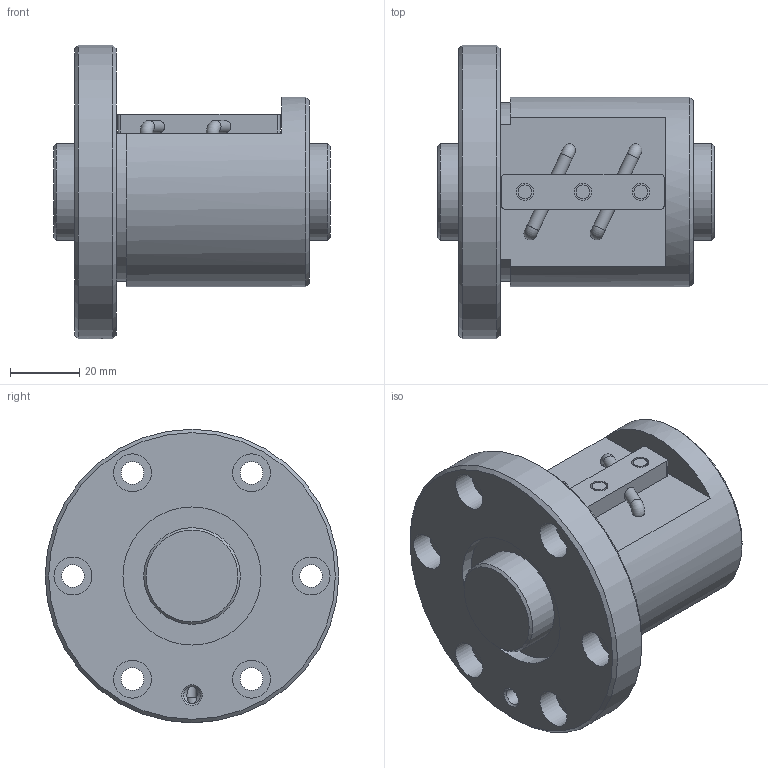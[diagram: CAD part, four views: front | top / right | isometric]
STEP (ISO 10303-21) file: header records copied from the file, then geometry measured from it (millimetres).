
FILE_DESCRIPTION(/* description */ ('STEP AP203'),/* implementation_level */ '2;1');
FILE_NAME(/* name */ 'BNF2806V-5RRG1+80LC0_000_rev',/* time_stamp */ '2024-08-06T07:30:50+02:00',/* author */ ('License CC BY-ND 4.0'),/* organization */ ('CADENAS'),/* preprocessor_version */ 'ST-DEVELOPER v19.3',/* originating_system */ 'PARTsolutions',/* authorisation */ ' ');
FILE_SCHEMA (('CONFIG_CONTROL_DESIGN'));
Length unit declared in the file: millimetre
Products named in the file (3): BNF2806V-5RRG1+80LC0_000_rev; BNF 2806-5RR000 Shaft; BNF 2806-5RR Nut
Assembly tree (2 placements, depth 2):
  BNF2806V-5RRG1+80LC0_000_rev
    BNF 2806-5RR000 Shaft
    BNF 2806-5RR Nut
Bounding box: 80 x 85 x 85 mm (x, y, z)
Volume: 185626.8 mm3; surface area: 40792.4 mm2
Topology: 2 solids, 2 shells, 78 faces, 172 edges, 113 vertices
Faces by surface type: cylinder 37, plane 29, cone 8, torus 4
Full cylindrical faces by diameter (mm): 3 x2, 3.665 x4, 4 x3, 4.917 x1, 5 x3, 6.6 x6, 11 x6, 28 x2, 40 x2, 55 x1, 85 x1
Entity records: 1991 total; most frequent: DIRECTION 352, CARTESIAN_POINT 341, ORIENTED_EDGE 230, AXIS2_PLACEMENT_3D 164, EDGE_LOOP 160, FACE_BOUND 160, EDGE_CURVE 115, VERTEX_POINT 99
